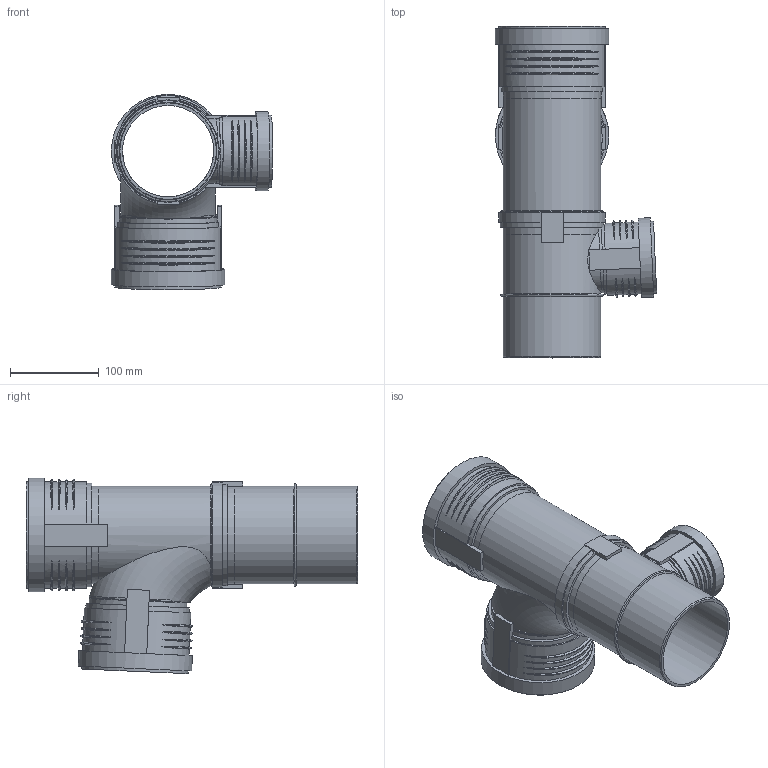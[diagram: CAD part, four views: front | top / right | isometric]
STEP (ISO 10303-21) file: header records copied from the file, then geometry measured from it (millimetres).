
FILE_DESCRIPTION(/* description */ (''),/* implementation_level */ '2;1');
FILE_NAME(/* name */ 'Z:\Geberit\Export\Export18\Kombiabzweig PP-MD_Iassembly\stp\390561.stp',/* time_stamp */ '2014-08-26T20:24:14+02:00',/* author */ ('ML'),/* organization */ (''),/* preprocessor_version */ 'ST-DEVELOPER v15.2',/* originating_system */ 'Autodesk Inventor 2014',/* authorisation */ '');
FILE_SCHEMA (('AUTOMOTIVE_DESIGN { 1 0 10303 214 3 1 1 }'));
Length unit declared in the file: millimetre
Products named in the file (11): 861361; 861402; 861404; 861810; 861363; 861404_1; 861740; 861812; 390561
Bounding box: 182.05 x 374.5 x 220.41 mm (x, y, z)
Volume: 718054 mm3; surface area: 430336.9 mm2
Topology: 6 solids, 6 shells, 220 faces, 539 edges, 370 vertices
Faces by surface type: torus 79, plane 77, cylinder 58, cone 6
Full cylindrical faces by diameter (mm): 70 x1, 70.2 x1, 75.2 x2, 76.2 x2, 81.2 x1, 84.6 x1, 89.6 x1, 103 x3, 103.2 x3, 110.2 x8, 113.3 x5, 120.3 x2, 121.1 x2, 128.1 x2
Entity records: 6666 total; most frequent: CARTESIAN_POINT 2708, DIRECTION 742, ORIENTED_EDGE 694, EDGE_CURVE 347, AXIS2_PLACEMENT_3D 317, VERTEX_POINT 259, EDGE_LOOP 246, STYLED_ITEM 168
